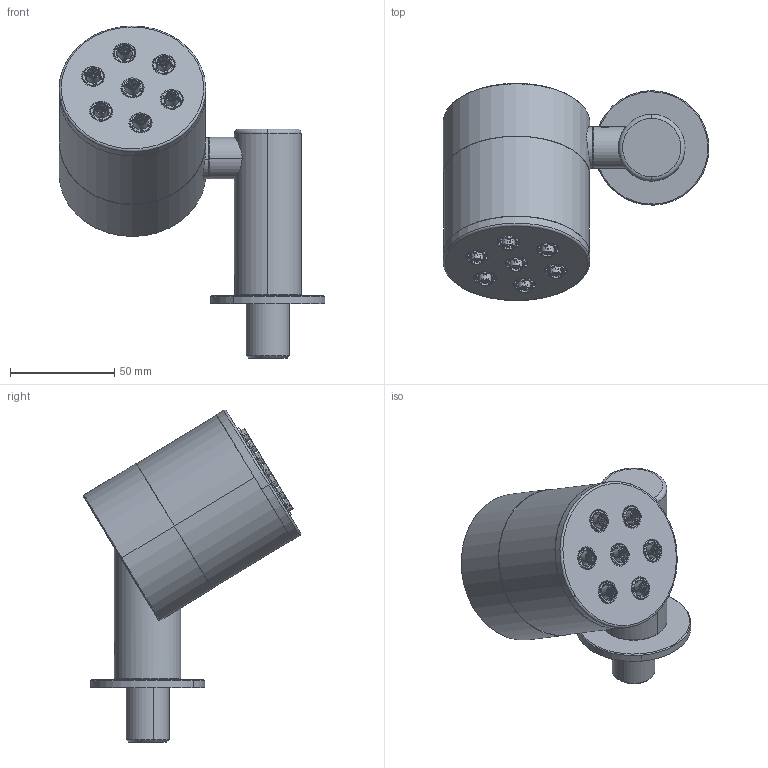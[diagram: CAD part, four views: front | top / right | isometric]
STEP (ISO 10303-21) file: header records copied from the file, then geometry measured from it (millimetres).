
FILE_DESCRIPTION (( 'STEP AP203' ), '1' );
FILE_NAME ('SWN3G.STEP', '2025-06-10T14:25:38', ( '' ), ( '' ), 'SwSTEP 2.0', 'SolidWorks 2024', '' );
FILE_SCHEMA (( 'CONFIG_CONTROL_DESIGN' ));
Length unit declared in the file: millimetre
Products named in the file (17): C11.14.0008; C25.1209.00.0; C21.2290.00.0; C25.2476.00.0; C25.1249.00.0; C25.2291.00.0; RACCORDO SOFFIONE LATERALE; C25.2477.00.0; AS957_00; C47.00.0023.01; C11.14.0007; C21.2292.00.0; C21.2289.00.0; SWN3G; C12.00.0007; C13.00.0054; C12.00.0043
Assembly tree (26 placements, depth 3):
  SWN3G
    C25.2477.00.0
    C11.14.0008
    C25.1209.00.0
    C25.2476.00.0
    AS957_00
      C21.2289.00.0
      C21.2290.00.0
      RACCORDO SOFFIONE LATERALE
      C25.2291.00.0
      C13.00.0054  x7
      C12.00.0007  x2
      C21.2292.00.0
      C12.00.0043
    C25.1249.00.0
    C47.00.0023.01
    C11.14.0007
    C12.00.0007  x3
Bounding box: 127.72 x 104.34 x 159.5 mm (x, y, z)
Volume: 269315 mm3; surface area: 111980.8 mm2
Topology: 25 solids, 25 shells, 1572 faces, 4475 edges, 2914 vertices
Faces by surface type: plane 1076, cylinder 313, cone 111, torus 58, bspline 14
Entity records: 19817 total; most frequent: CARTESIAN_POINT 4182, DIRECTION 2971, ORIENTED_EDGE 2714, EDGE_CURVE 1357, AXIS2_PLACEMENT_3D 1112, VERTEX_POINT 858, LINE 747, VECTOR 747
